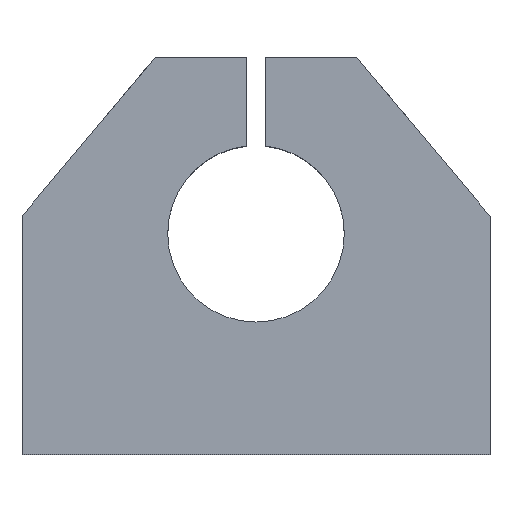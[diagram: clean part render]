
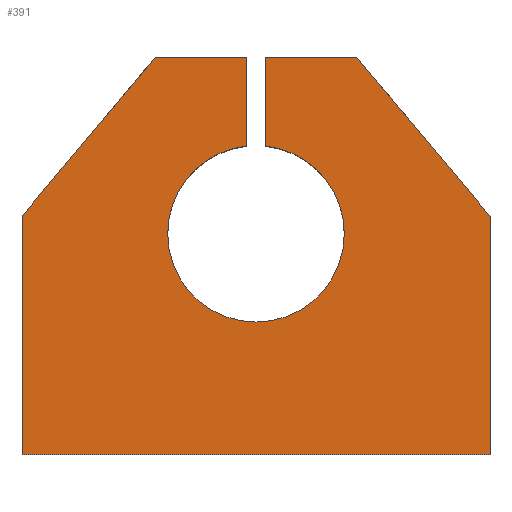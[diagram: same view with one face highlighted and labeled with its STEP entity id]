
A CAD part, top view. The second image highlights one B-rep face of the part: STEP entity #391.
In plain terms, the highlighted planar face has unit normal (0, 0, 1).
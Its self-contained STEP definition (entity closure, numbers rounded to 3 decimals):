
#11 = CIRCLE ( 'NONE', #720, 10. ) ;
#12 = EDGE_CURVE ( 'NONE', #367, #1014, #938, .T. ) ;
#45 = EDGE_CURVE ( 'NONE', #1053, #1038, #11, .T. ) ;
#46 = VERTEX_POINT ( 'NONE', #238 ) ;
#60 = DIRECTION ( 'NONE',  ( 1., 0., 0. ) ) ;
#79 = ORIENTED_EDGE ( 'NONE', *, *, #883, .T. ) ;
#106 = ORIENTED_EDGE ( 'NONE', *, *, #882, .T. ) ;
#111 = CARTESIAN_POINT ( 'NONE',  ( -10., 2.5, 12. ) ) ;
#141 = CARTESIAN_POINT ( 'NONE',  ( 26.5, -22.5, 12. ) ) ;
#148 = CARTESIAN_POINT ( 'NONE',  ( -26.5, 4.5, 12. ) ) ;
#155 = CARTESIAN_POINT ( 'NONE',  ( 26.5, 4.5, 12. ) ) ;
#213 = AXIS2_PLACEMENT_3D ( 'NONE', #691, #1156, #605 ) ;
#214 = CARTESIAN_POINT ( 'NONE',  ( -26.5, -22.5, 12. ) ) ;
#220 = CARTESIAN_POINT ( 'NONE',  ( -1.075, 22.5, 12. ) ) ;
#221 = EDGE_LOOP ( 'NONE', ( #433, #1125, #1019, #1206, #992, #886, #935, #79, #675, #1155, #782, #106 ) ) ;
#238 = CARTESIAN_POINT ( 'NONE',  ( 10., 2.5, 12. ) ) ;
#252 = DIRECTION ( 'NONE',  ( -0.643, 0.766, 0. ) ) ;
#264 = VECTOR ( 'NONE', #252, 1000. ) ;
#274 = CARTESIAN_POINT ( 'NONE',  ( -1.075, 22.5, 12. ) ) ;
#304 = CARTESIAN_POINT ( 'NONE',  ( -26.5, -22.5, 12. ) ) ;
#308 = CARTESIAN_POINT ( 'NONE',  ( 11.396, 22.5, 12. ) ) ;
#329 = VERTEX_POINT ( 'NONE', #304 ) ;
#332 = CIRCLE ( 'NONE', #213, 10. ) ;
#339 = EDGE_CURVE ( 'NONE', #544, #766, #765, .T. ) ;
#367 = VERTEX_POINT ( 'NONE', #274 ) ;
#391 = ADVANCED_FACE ( 'NONE', ( #942 ), #1198, .T. ) ;
#392 = CARTESIAN_POINT ( 'NONE',  ( -26.5, 22.5, 12. ) ) ;
#400 = DIRECTION ( 'NONE',  ( 0., 0., 1. ) ) ;
#425 = CARTESIAN_POINT ( 'NONE',  ( 1.075, 12.442, 12. ) ) ;
#433 = ORIENTED_EDGE ( 'NONE', *, *, #1174, .T. ) ;
#443 = CARTESIAN_POINT ( 'NONE',  ( -26.5, 22.5, 12. ) ) ;
#449 = CARTESIAN_POINT ( 'NONE',  ( 26.5, 22.5, 12. ) ) ;
#466 = VECTOR ( 'NONE', #844, 1000. ) ;
#468 = VERTEX_POINT ( 'NONE', #141 ) ;
#469 = VECTOR ( 'NONE', #1126, 1000. ) ;
#470 = VECTOR ( 'NONE', #657, 1000. ) ;
#489 = CARTESIAN_POINT ( 'NONE',  ( 0., 0., 12. ) ) ;
#497 = DIRECTION ( 'NONE',  ( 0., 0., 1. ) ) ;
#501 = LINE ( 'NONE', #392, #469 ) ;
#502 = LINE ( 'NONE', #214, #760 ) ;
#526 = EDGE_CURVE ( 'NONE', #1038, #46, #332, .T. ) ;
#540 = LINE ( 'NONE', #449, #799 ) ;
#541 = CARTESIAN_POINT ( 'NONE',  ( -17.767, 14.908, 12. ) ) ;
#544 = VERTEX_POINT ( 'NONE', #1075 ) ;
#546 = DIRECTION ( 'NONE',  ( 0., 0., 1. ) ) ;
#556 = EDGE_CURVE ( 'NONE', #468, #870, #540, .T. ) ;
#561 = CARTESIAN_POINT ( 'NONE',  ( -26.5, 22.5, 12. ) ) ;
#594 = EDGE_CURVE ( 'NONE', #46, #766, #897, .T. ) ;
#599 = CARTESIAN_POINT ( 'NONE',  ( -1.075, 12.442, 12. ) ) ;
#605 = DIRECTION ( 'NONE',  ( 1., 0., 0. ) ) ;
#622 = VECTOR ( 'NONE', #1073, 1000. ) ;
#631 = CARTESIAN_POINT ( 'NONE',  ( 0., 2.5, 12. ) ) ;
#643 = VERTEX_POINT ( 'NONE', #148 ) ;
#657 = DIRECTION ( 'NONE',  ( -1., 0., 0. ) ) ;
#667 = DIRECTION ( 'NONE',  ( 0., -1., 0. ) ) ;
#675 = ORIENTED_EDGE ( 'NONE', *, *, #839, .T. ) ;
#691 = CARTESIAN_POINT ( 'NONE',  ( 0., 2.5, 12. ) ) ;
#707 = LINE ( 'NONE', #541, #622 ) ;
#718 = DIRECTION ( 'NONE',  ( 0., -1., 0. ) ) ;
#720 = AXIS2_PLACEMENT_3D ( 'NONE', #868, #400, #1144 ) ;
#723 = DIRECTION ( 'NONE',  ( 0., 1., 0. ) ) ;
#724 = EDGE_CURVE ( 'NONE', #329, #468, #502, .T. ) ;
#726 = CARTESIAN_POINT ( 'NONE',  ( 17.767, 14.908, 12. ) ) ;
#733 = VECTOR ( 'NONE', #718, 1000. ) ;
#760 = VECTOR ( 'NONE', #956, 1000. ) ;
#765 = LINE ( 'NONE', #769, #929 ) ;
#766 = VERTEX_POINT ( 'NONE', #425 ) ;
#769 = CARTESIAN_POINT ( 'NONE',  ( 1.075, 22.5, 12. ) ) ;
#782 = ORIENTED_EDGE ( 'NONE', *, *, #556, .T. ) ;
#799 = VECTOR ( 'NONE', #723, 1000. ) ;
#829 = AXIS2_PLACEMENT_3D ( 'NONE', #489, #497, #860 ) ;
#839 = EDGE_CURVE ( 'NONE', #643, #329, #898, .T. ) ;
#844 = DIRECTION ( 'NONE',  ( 0., -1., 0. ) ) ;
#860 = DIRECTION ( 'NONE',  ( 1., 0., 0. ) ) ;
#868 = CARTESIAN_POINT ( 'NONE',  ( 0., 2.5, 12. ) ) ;
#870 = VERTEX_POINT ( 'NONE', #155 ) ;
#882 = EDGE_CURVE ( 'NONE', #870, #1034, #1081, .T. ) ;
#883 = EDGE_CURVE ( 'NONE', #1014, #643, #707, .T. ) ;
#886 = ORIENTED_EDGE ( 'NONE', *, *, #1086, .F. ) ;
#895 = AXIS2_PLACEMENT_3D ( 'NONE', #631, #546, #60 ) ;
#897 = CIRCLE ( 'NONE', #895, 10. ) ;
#898 = LINE ( 'NONE', #443, #733 ) ;
#929 = VECTOR ( 'NONE', #667, 1000. ) ;
#935 = ORIENTED_EDGE ( 'NONE', *, *, #12, .T. ) ;
#938 = LINE ( 'NONE', #561, #470 ) ;
#942 = FACE_OUTER_BOUND ( 'NONE', #221, .T. ) ;
#956 = DIRECTION ( 'NONE',  ( 1., 0., 0. ) ) ;
#992 = ORIENTED_EDGE ( 'NONE', *, *, #45, .F. ) ;
#1014 = VERTEX_POINT ( 'NONE', #1037 ) ;
#1019 = ORIENTED_EDGE ( 'NONE', *, *, #594, .F. ) ;
#1034 = VERTEX_POINT ( 'NONE', #308 ) ;
#1037 = CARTESIAN_POINT ( 'NONE',  ( -11.396, 22.5, 12. ) ) ;
#1038 = VERTEX_POINT ( 'NONE', #111 ) ;
#1053 = VERTEX_POINT ( 'NONE', #599 ) ;
#1073 = DIRECTION ( 'NONE',  ( -0.643, -0.766, 0. ) ) ;
#1075 = CARTESIAN_POINT ( 'NONE',  ( 1.075, 22.5, 12. ) ) ;
#1081 = LINE ( 'NONE', #726, #264 ) ;
#1086 = EDGE_CURVE ( 'NONE', #367, #1053, #1138, .T. ) ;
#1125 = ORIENTED_EDGE ( 'NONE', *, *, #339, .T. ) ;
#1126 = DIRECTION ( 'NONE',  ( -1., 0., 0. ) ) ;
#1138 = LINE ( 'NONE', #220, #466 ) ;
#1144 = DIRECTION ( 'NONE',  ( 1., 0., 0. ) ) ;
#1155 = ORIENTED_EDGE ( 'NONE', *, *, #724, .T. ) ;
#1156 = DIRECTION ( 'NONE',  ( 0., 0., 1. ) ) ;
#1174 = EDGE_CURVE ( 'NONE', #1034, #544, #501, .T. ) ;
#1198 = PLANE ( 'NONE',  #829 ) ;
#1206 = ORIENTED_EDGE ( 'NONE', *, *, #526, .F. ) ;
